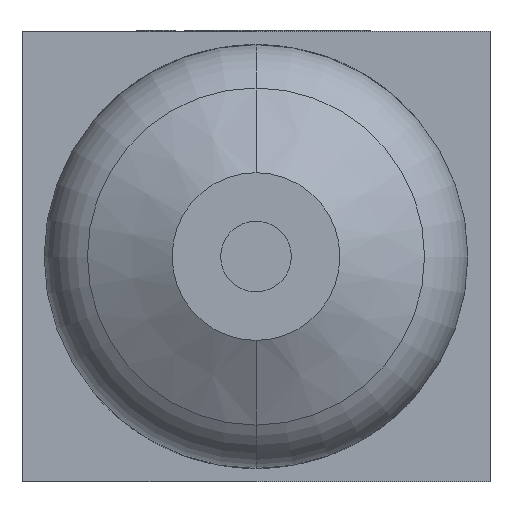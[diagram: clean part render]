
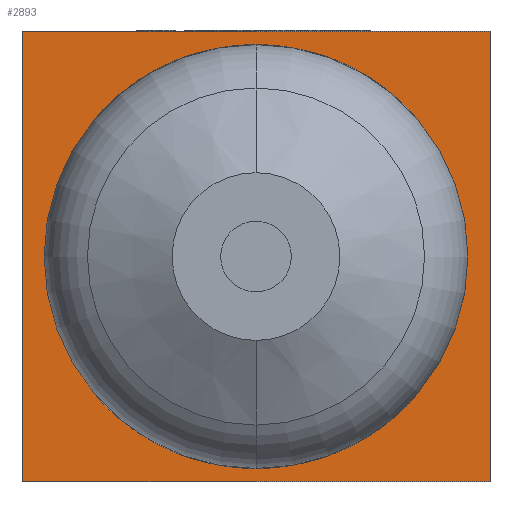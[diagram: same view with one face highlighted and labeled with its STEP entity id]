
A CAD part, front view. The second image highlights one B-rep face of the part: STEP entity #2893.
In plain terms, the highlighted planar face has unit normal (0, -1, 0).
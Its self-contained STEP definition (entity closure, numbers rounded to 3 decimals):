
#198 = VERTEX_POINT ( 'NONE', #2705 ) ;
#375 = VECTOR ( 'NONE', #4302, 1000. ) ;
#1058 = VERTEX_POINT ( 'NONE', #1100 ) ;
#1059 = DIRECTION ( 'NONE',  ( 0., 0., -1. ) ) ;
#1100 = CARTESIAN_POINT ( 'NONE',  ( -26.5, -25.5, 25.5 ) ) ;
#1445 = AXIS2_PLACEMENT_3D ( 'NONE', #2592, #3427, #4974 ) ;
#1467 = VECTOR ( 'NONE', #5708, 1000. ) ;
#1693 = EDGE_CURVE ( 'NONE', #8827, #10109, #3956, .T. ) ;
#2359 = ORIENTED_EDGE ( 'NONE', *, *, #1693, .T. ) ;
#2463 = CARTESIAN_POINT ( 'NONE',  ( -26.5, -25.5, -25.5 ) ) ;
#2526 = LINE ( 'NONE', #9947, #8654 ) ;
#2567 = ORIENTED_EDGE ( 'NONE', *, *, #3631, .F. ) ;
#2592 = CARTESIAN_POINT ( 'NONE',  ( -26.5, -25.5, 25.5 ) ) ;
#2705 = CARTESIAN_POINT ( 'NONE',  ( 26.5, -25.5, 25.5 ) ) ;
#2893 = ADVANCED_FACE ( 'NONE', ( #5879 ), #8224, .F. ) ;
#2999 = LINE ( 'NONE', #5872, #5394 ) ;
#3427 = DIRECTION ( 'NONE',  ( 0., 1., 0. ) ) ;
#3631 = EDGE_CURVE ( 'NONE', #198, #10109, #2999, .T. ) ;
#3956 = LINE ( 'NONE', #2463, #1467 ) ;
#4302 = DIRECTION ( 'NONE',  ( 1., 0., 0. ) ) ;
#4476 = DIRECTION ( 'NONE',  ( 0., 0., -1. ) ) ;
#4628 = ORIENTED_EDGE ( 'NONE', *, *, #5386, .F. ) ;
#4974 = DIRECTION ( 'NONE',  ( -1., 0., 0. ) ) ;
#5158 = CARTESIAN_POINT ( 'NONE',  ( -26.5, -25.5, 25.5 ) ) ;
#5378 = LINE ( 'NONE', #5158, #375 ) ;
#5386 = EDGE_CURVE ( 'NONE', #1058, #198, #5378, .T. ) ;
#5394 = VECTOR ( 'NONE', #1059, 1000. ) ;
#5708 = DIRECTION ( 'NONE',  ( 1., 0., 0. ) ) ;
#5872 = CARTESIAN_POINT ( 'NONE',  ( 26.5, -25.5, 25.5 ) ) ;
#5879 = FACE_OUTER_BOUND ( 'NONE', #9919, .T. ) ;
#7323 = CARTESIAN_POINT ( 'NONE',  ( -26.5, -25.5, -25.5 ) ) ;
#8224 = PLANE ( 'NONE',  #1445 ) ;
#8495 = ORIENTED_EDGE ( 'NONE', *, *, #9614, .T. ) ;
#8654 = VECTOR ( 'NONE', #4476, 1000. ) ;
#8827 = VERTEX_POINT ( 'NONE', #7323 ) ;
#8921 = CARTESIAN_POINT ( 'NONE',  ( 26.5, -25.5, -25.5 ) ) ;
#9614 = EDGE_CURVE ( 'NONE', #1058, #8827, #2526, .T. ) ;
#9919 = EDGE_LOOP ( 'NONE', ( #2359, #2567, #4628, #8495 ) ) ;
#9947 = CARTESIAN_POINT ( 'NONE',  ( -26.5, -25.5, 25.5 ) ) ;
#10109 = VERTEX_POINT ( 'NONE', #8921 ) ;
